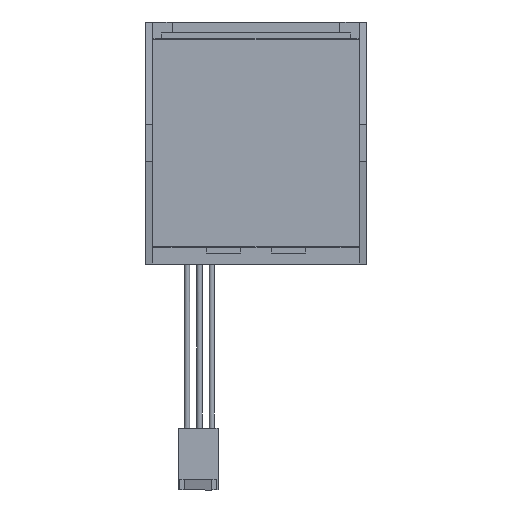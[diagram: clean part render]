
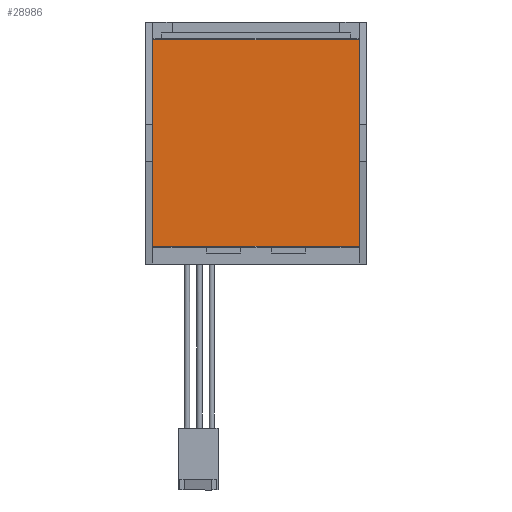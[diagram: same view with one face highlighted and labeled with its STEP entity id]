
A CAD part, front view. The second image highlights one B-rep face of the part: STEP entity #28986.
In plain terms, the highlighted planar face has unit normal (0, -1, 0).
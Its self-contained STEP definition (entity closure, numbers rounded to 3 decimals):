
#3089 = VECTOR ( 'NONE', #4273, 1000. ) ;
#4173 = AXIS2_PLACEMENT_3D ( 'NONE', #54364, #43936, #24656 ) ;
#4273 = DIRECTION ( 'NONE',  ( 0., 0., 1. ) ) ;
#5534 = VERTEX_POINT ( 'NONE', #44162 ) ;
#5923 = ORIENTED_EDGE ( 'NONE', *, *, #18230, .F. ) ;
#9419 = DIRECTION ( 'NONE',  ( -1., 0., 0. ) ) ;
#10532 = CARTESIAN_POINT ( 'NONE',  ( 21.209, -0.127, -21.209 ) ) ;
#11170 = DIRECTION ( 'NONE',  ( 0., 0., -1. ) ) ;
#12601 = CARTESIAN_POINT ( 'NONE',  ( -21.209, -0.127, -21.209 ) ) ;
#13098 = PLANE ( 'NONE',  #4173 ) ;
#18230 = EDGE_CURVE ( 'NONE', #23845, #58138, #58794, .T. ) ;
#19066 = DIRECTION ( 'NONE',  ( 1., 0., 0. ) ) ;
#19281 = ORIENTED_EDGE ( 'NONE', *, *, #24985, .F. ) ;
#23845 = VERTEX_POINT ( 'NONE', #49274 ) ;
#24656 = DIRECTION ( 'NONE',  ( 0., 0., 1. ) ) ;
#24985 = EDGE_CURVE ( 'NONE', #58138, #56360, #38664, .T. ) ;
#27067 = ORIENTED_EDGE ( 'NONE', *, *, #47064, .F. ) ;
#27757 = EDGE_CURVE ( 'NONE', #56360, #5534, #28105, .T. ) ;
#28105 = LINE ( 'NONE', #47409, #3089 ) ;
#28986 = ADVANCED_FACE ( 'NONE', ( #32300 ), #13098, .F. ) ;
#32300 = FACE_OUTER_BOUND ( 'NONE', #53105, .T. ) ;
#33626 = CARTESIAN_POINT ( 'NONE',  ( -21.209, -0.127, -21.209 ) ) ;
#37855 = VECTOR ( 'NONE', #9419, 1000. ) ;
#37906 = CARTESIAN_POINT ( 'NONE',  ( 21.209, -0.127, -21.209 ) ) ;
#38664 = LINE ( 'NONE', #33626, #37855 ) ;
#43868 = VECTOR ( 'NONE', #19066, 1000. ) ;
#43936 = DIRECTION ( 'NONE',  ( 0., 1., 0. ) ) ;
#44162 = CARTESIAN_POINT ( 'NONE',  ( -21.209, -0.127, 21.209 ) ) ;
#44835 = ORIENTED_EDGE ( 'NONE', *, *, #27757, .F. ) ;
#47064 = EDGE_CURVE ( 'NONE', #5534, #23845, #62346, .T. ) ;
#47409 = CARTESIAN_POINT ( 'NONE',  ( -21.209, -0.127, -21.209 ) ) ;
#48110 = CARTESIAN_POINT ( 'NONE',  ( -21.209, -0.127, 21.209 ) ) ;
#49274 = CARTESIAN_POINT ( 'NONE',  ( 21.209, -0.127, 21.209 ) ) ;
#53105 = EDGE_LOOP ( 'NONE', ( #44835, #19281, #5923, #27067 ) ) ;
#54364 = CARTESIAN_POINT ( 'NONE',  ( -21.209, -0.127, 21.209 ) ) ;
#56360 = VERTEX_POINT ( 'NONE', #12601 ) ;
#58138 = VERTEX_POINT ( 'NONE', #37906 ) ;
#58794 = LINE ( 'NONE', #10532, #60600 ) ;
#60600 = VECTOR ( 'NONE', #11170, 1000. ) ;
#62346 = LINE ( 'NONE', #48110, #43868 ) ;
